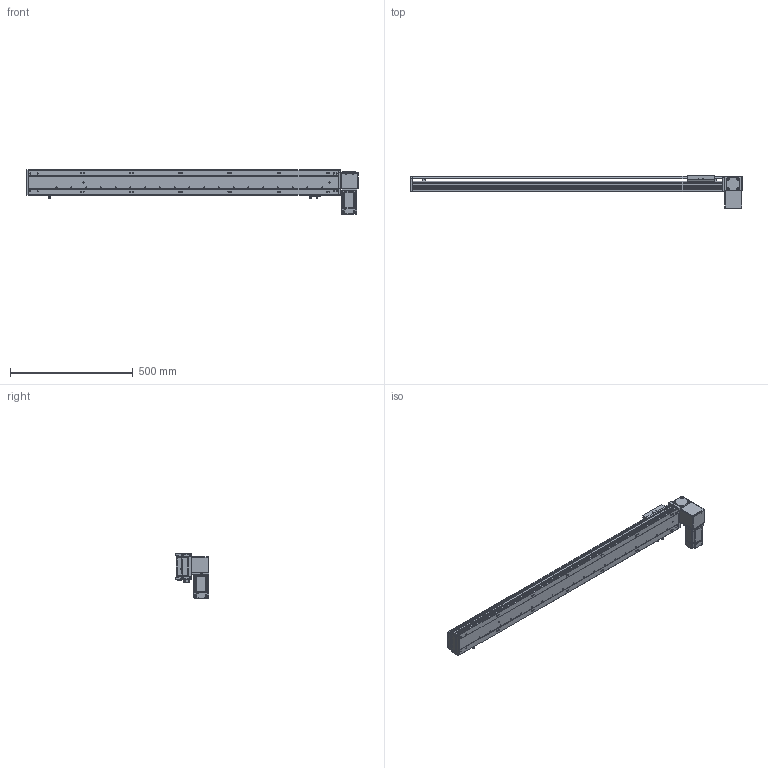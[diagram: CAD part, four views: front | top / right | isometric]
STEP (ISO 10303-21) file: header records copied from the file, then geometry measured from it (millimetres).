
FILE_DESCRIPTION (( 'STEP AP203' ), '1' );
FILE_NAME ('RY100-T-300-DL.SLDASM_1050.step', '2024-04-24T01:11:34', ( '盈信电脑' ), ( '东莞市道滘镇水果街19号' ), 'SwSTEP 2.0', 'SolidWorks 2016', '' );
FILE_SCHEMA (( 'CONFIG_CONTROL_DESIGN' ));
Length unit declared in the file: millimetre
Products named in the file (16): RY100俋离覜茼え; 覜茼ん672; RY100-T翋肮祭謫裔啣; RY100-T肮祭謫臏賑輸; RY100-T翋肮祭謫裔啣2; RY100-T粣創揤踡裔; RY100綴裔啣; RY100-T-300-RK倰第奻裔_1050; 滅袉蝶18-10; RY80-T肮祭謫狟殏俋欶; RY100-T肮祭謫翋盓傅釱; RY100-T翋肮祭謫粣; RY100-T-300-RK倰第菁釱_1050; 1; RY100-T左右折电机安装板; RY100-T-300-DL.SLDASM_1050
Assembly tree (18 placements, depth 2):
  RY100-T-300-DL.SLDASM_1050
    RY100-T-300-RK倰第菁釱_1050
    RY100-T-300-RK倰第奻裔_1050
    RY100-T肮祭謫臏賑輸
    RY100綴裔啣
    覜茼ん672  x3
    RY100俋离覜茼え
    RY100-T翋肮祭謫粣
    RY100-T肮祭謫翋盓傅釱
    滅袉蝶18-10  x2
    RY100-T翋肮祭謫裔啣
    1
    RY100-T左右折电机安装板
    RY100-T粣創揤踡裔
    RY100-T翋肮祭謫裔啣2
    RY80-T肮祭謫狟殏俋欶
Bounding box: 1350 x 135.5 x 182.5 mm (x, y, z)
Volume: 2724677.9 mm3; surface area: 1119915.2 mm2
Topology: 18 solids, 18 shells, 2205 faces, 6096 edges, 3956 vertices
Faces by surface type: plane 1207, cylinder 783, cone 137, bspline 78
Entity records: 70675 total; most frequent: CARTESIAN_POINT 16864, ORIENTED_EDGE 11024, DIRECTION 10548, EDGE_CURVE 5512, VERTEX_POINT 3624, LINE 3586, VECTOR 3586, AXIS2_PLACEMENT_3D 3481
